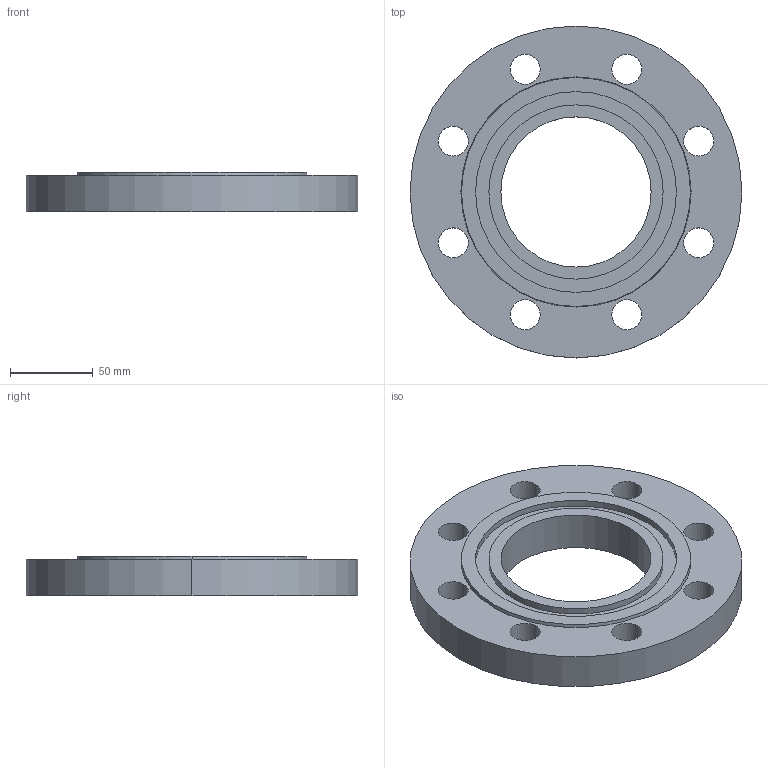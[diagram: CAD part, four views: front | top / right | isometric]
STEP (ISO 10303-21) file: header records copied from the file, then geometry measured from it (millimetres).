
FILE_DESCRIPTION (( 'STEP AP214' ), '1' );
FILE_NAME ('PN40 DN80 Type 01 - Type D Face.STEP', '2019-01-01T19:48:13', ( '' ), ( '' ), 'SwSTEP 2.0', 'SolidWorks 2019', '' );
FILE_SCHEMA (( 'AUTOMOTIVE_DESIGN' ));
Length unit declared in the file: millimetre
Products named in the file (1): PN40 DN80 Type 01 - Type D Face
Bounding box: 200 x 200 x 24 mm (x, y, z)
Volume: 510688.7 mm3; surface area: 80063.7 mm2
Topology: 1 solids, 1 shells, 31 faces, 78 edges, 52 vertices
Faces by surface type: cylinder 24, plane 5, cone 2
Entity records: 1034 total; most frequent: DIRECTION 194, CARTESIAN_POINT 162, ORIENTED_EDGE 156, AXIS2_PLACEMENT_3D 84, EDGE_CURVE 78, CIRCLE 52, VERTEX_POINT 52, EDGE_LOOP 52
